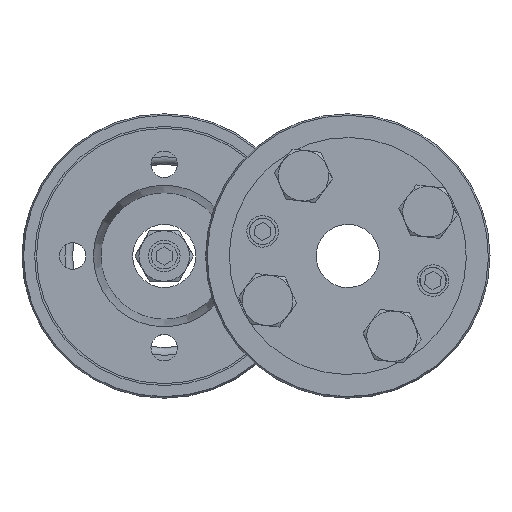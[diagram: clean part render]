
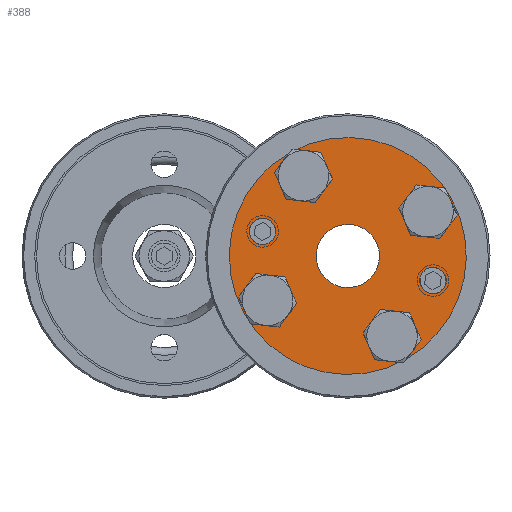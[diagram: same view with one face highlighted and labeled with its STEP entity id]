
A CAD part, left-side view. The second image highlights one B-rep face of the part: STEP entity #388.
In plain terms, the highlighted planar face has unit normal (-1, 0, 0).
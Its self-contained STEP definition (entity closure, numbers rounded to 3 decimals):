
#388 = ADVANCED_FACE( 'NONE', ( #649, #650, #651, #652, #653, #654, #655, #656 ), #657, .F. );
#649 = FACE_OUTER_BOUND( '', #1022, .T. );
#650 = FACE_BOUND( '', #1023, .T. );
#651 = FACE_BOUND( '', #1024, .T. );
#652 = FACE_BOUND( '', #1025, .T. );
#653 = FACE_BOUND( '', #1026, .T. );
#654 = FACE_BOUND( '', #1027, .T. );
#655 = FACE_BOUND( '', #1028, .T. );
#656 = FACE_BOUND( '', #1029, .T. );
#657 = PLANE( '', #1030 );
#1022 = EDGE_LOOP( '', ( #1430 ) );
#1023 = EDGE_LOOP( '', ( #1431 ) );
#1024 = EDGE_LOOP( '', ( #1432 ) );
#1025 = EDGE_LOOP( '', ( #1433 ) );
#1026 = EDGE_LOOP( '', ( #1434 ) );
#1027 = EDGE_LOOP( '', ( #1435 ) );
#1028 = EDGE_LOOP( '', ( #1436 ) );
#1029 = EDGE_LOOP( '', ( #1437 ) );
#1030 = AXIS2_PLACEMENT_3D( '', #1438, #1439, #1440 );
#1430 = ORIENTED_EDGE( '', *, *, #2124, .T. );
#1431 = ORIENTED_EDGE( '', *, *, #2125, .F. );
#1432 = ORIENTED_EDGE( '', *, *, #2123, .F. );
#1433 = ORIENTED_EDGE( '', *, *, #2111, .F. );
#1434 = ORIENTED_EDGE( '', *, *, #2120, .F. );
#1435 = ORIENTED_EDGE( '', *, *, #2109, .F. );
#1436 = ORIENTED_EDGE( '', *, *, #2121, .F. );
#1437 = ORIENTED_EDGE( '', *, *, #2122, .F. );
#1438 = CARTESIAN_POINT( '', ( 19.839, 18.75, 0. ) );
#1439 = DIRECTION( '', ( 1., 0., 0. ) );
#1440 = DIRECTION( '', ( 0., 1., 0. ) );
#2109 = EDGE_CURVE( 'NONE', #2290, #2290, #2291, .T. );
#2111 = EDGE_CURVE( 'NONE', #2294, #2294, #2295, .T. );
#2120 = EDGE_CURVE( 'NONE', #2312, #2312, #2313, .T. );
#2121 = EDGE_CURVE( 'NONE', #2314, #2314, #2315, .T. );
#2122 = EDGE_CURVE( 'NONE', #2316, #2316, #2317, .T. );
#2123 = EDGE_CURVE( 'NONE', #2318, #2318, #2319, .T. );
#2124 = EDGE_CURVE( 'NONE', #2320, #2320, #2321, .T. );
#2125 = EDGE_CURVE( 'NONE', #2322, #2322, #2323, .T. );
#2290 = VERTEX_POINT( '', #2558 );
#2291 = CIRCLE( '', #2559, 2.1 );
#2294 = VERTEX_POINT( '', #2562 );
#2295 = CIRCLE( '', #2563, 5. );
#2312 = VERTEX_POINT( '', #2580 );
#2313 = CIRCLE( '', #2581, 2.75 );
#2314 = VERTEX_POINT( '', #2582 );
#2315 = CIRCLE( '', #2583, 2.75 );
#2316 = VERTEX_POINT( '', #2584 );
#2317 = CIRCLE( '', #2585, 2.1 );
#2318 = VERTEX_POINT( '', #2586 );
#2319 = CIRCLE( '', #2587, 2.75 );
#2320 = VERTEX_POINT( '', #2588 );
#2321 = CIRCLE( '', #2589, 18.75 );
#2322 = VERTEX_POINT( '', #2590 );
#2323 = CIRCLE( '', #2591, 2.75 );
#2558 = CARTESIAN_POINT( '', ( 19.839, 9.92, 12.02 ) );
#2559 = AXIS2_PLACEMENT_3D( '', #2852, #2853, #2854 );
#2562 = CARTESIAN_POINT( '', ( 19.839, 0., 5. ) );
#2563 = AXIS2_PLACEMENT_3D( '', #2858, #2859, #2860 );
#2580 = CARTESIAN_POINT( '', ( 19.839, 14.5, 2.75 ) );
#2581 = AXIS2_PLACEMENT_3D( '', #2885, #2886, #2887 );
#2582 = CARTESIAN_POINT( '', ( 19.839, -14.5, 2.75 ) );
#2583 = AXIS2_PLACEMENT_3D( '', #2888, #2889, #2890 );
#2584 = CARTESIAN_POINT( '', ( 19.839, -9.92, -7.82 ) );
#2585 = AXIS2_PLACEMENT_3D( '', #2891, #2892, #2893 );
#2586 = CARTESIAN_POINT( '', ( 19.839, 0., -11.75 ) );
#2587 = AXIS2_PLACEMENT_3D( '', #2894, #2895, #2896 );
#2588 = CARTESIAN_POINT( '', ( 19.839, 0., 18.75 ) );
#2589 = AXIS2_PLACEMENT_3D( '', #2897, #2898, #2899 );
#2590 = CARTESIAN_POINT( '', ( 19.839, 0., 17.25 ) );
#2591 = AXIS2_PLACEMENT_3D( '', #2900, #2901, #2902 );
#2852 = CARTESIAN_POINT( '', ( 19.839, 9.92, 9.92 ) );
#2853 = DIRECTION( '', ( -1., 0., 0. ) );
#2854 = DIRECTION( '', ( 0., 0., 1. ) );
#2858 = CARTESIAN_POINT( '', ( 19.839, 0., 0. ) );
#2859 = DIRECTION( '', ( -1., 0., 0. ) );
#2860 = DIRECTION( '', ( 0., 0., 1. ) );
#2885 = CARTESIAN_POINT( '', ( 19.839, 14.5, 0. ) );
#2886 = DIRECTION( '', ( -1., 0., 0. ) );
#2887 = DIRECTION( '', ( 0., 0., 1. ) );
#2888 = CARTESIAN_POINT( '', ( 19.839, -14.5, 0. ) );
#2889 = DIRECTION( '', ( -1., 0., 0. ) );
#2890 = DIRECTION( '', ( 0., 0., 1. ) );
#2891 = CARTESIAN_POINT( '', ( 19.839, -9.92, -9.92 ) );
#2892 = DIRECTION( '', ( -1., 0., 0. ) );
#2893 = DIRECTION( '', ( 0., 0., 1. ) );
#2894 = CARTESIAN_POINT( '', ( 19.839, 0., -14.5 ) );
#2895 = DIRECTION( '', ( -1., 0., 0. ) );
#2896 = DIRECTION( '', ( 0., 0., 1. ) );
#2897 = CARTESIAN_POINT( '', ( 19.839, 0., 0. ) );
#2898 = DIRECTION( '', ( -1., 0., 0. ) );
#2899 = DIRECTION( '', ( 0., 0., 1. ) );
#2900 = CARTESIAN_POINT( '', ( 19.839, 0., 14.5 ) );
#2901 = DIRECTION( '', ( -1., 0., 0. ) );
#2902 = DIRECTION( '', ( 0., 0., 1. ) );
